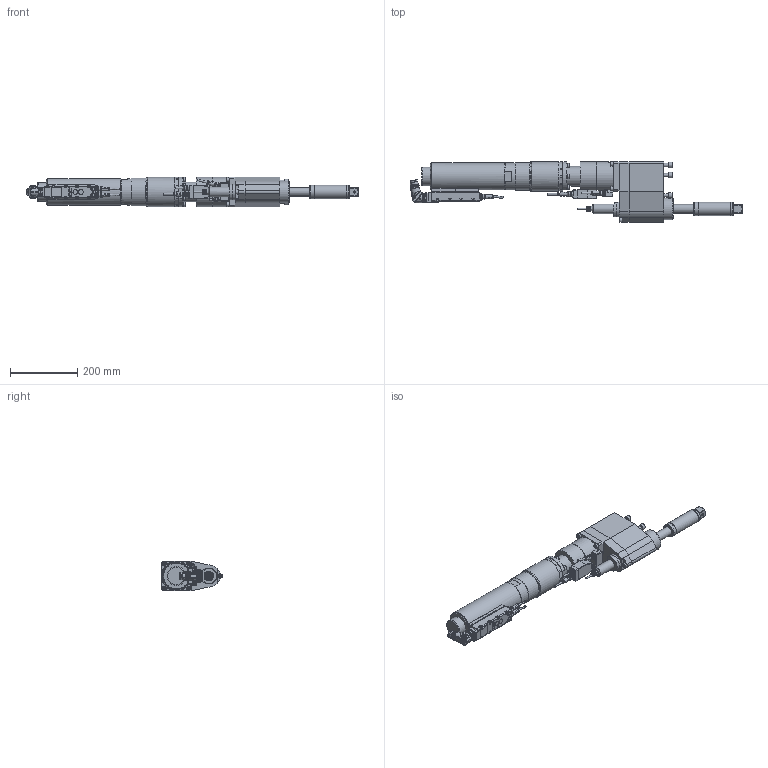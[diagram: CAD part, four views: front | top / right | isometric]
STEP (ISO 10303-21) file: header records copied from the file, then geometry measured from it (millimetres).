
FILE_DESCRIPTION (( 'STEP AP214' ), '1' );
FILE_NAME ('70082516_ESX461ZWRX800WX4AODX460-800.STEP', '2016-10-27T10:46:19', ( 'admin' ), ( '' ), 'SwSTEP 2.0', 'SolidWorks 2014', '' );
FILE_SCHEMA (( 'AUTOMOTIVE_DESIGN' ));
Length unit declared in the file: millimetre
Products named in the file (12): 70082516_ESX461ZWRX800WX4AODX460-800; 7006176_3; 70082387; 70082363; 70082336; 70082311_ESX461_Standard_Winkel_2; 70082293_2; 70057493_Standard_winkel; 70057493_4; 70057493_3; 70057493_2; 70082311
Assembly tree (12 placements, depth 4):
  70082516_ESX461ZWRX800WX4AODX460-800
    70082311_ESX461_Standard_Winkel_2
      70082311
      70057493_Standard_winkel
        70057493_2
        70057493_3
        70057493_4
      70082293_2  x2
    70082336
    70082363
    70082387
    7006176_3
Bounding box: 984.76 x 180.58 x 88 mm (x, y, z)
Volume: 5450848.4 mm3; surface area: 470676.9 mm2
Topology: 14 solids, 14 shells, 3409 faces, 8798 edges, 5687 vertices
Faces by surface type: plane 1651, cylinder 933, cone 458, bspline 271, torus 90, sphere 6
Full cylindrical faces by diameter (mm): 0.5 x14, 0.57 x14, 2 x3, 2.5 x1, 3 x4, 4.2 x1, 4.9 x6, 5 x14, 5.5 x12, 6 x3, 6.8 x12, 8 x43, 8.459 x2, 9 x8, 9.1 x1, 9.5 x1, 9.7 x1, 10 x5, 11.08 x3, 11.7 x1, 12 x2, 12.3 x3, 13 x18, 14 x7, 14.5 x2, 16 x5, 17.4 x1, 20 x1, 21.15 x1, 21.5 x1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
Entity records: 112962 total; most frequent: CARTESIAN_POINT 36265, ORIENTED_EDGE 15800, DIRECTION 14031, EDGE_CURVE 7900, VERTEX_POINT 5338, AXIS2_PLACEMENT_3D 5277, EDGE_LOOP 4000, FACE_OUTER_BOUND 3572
